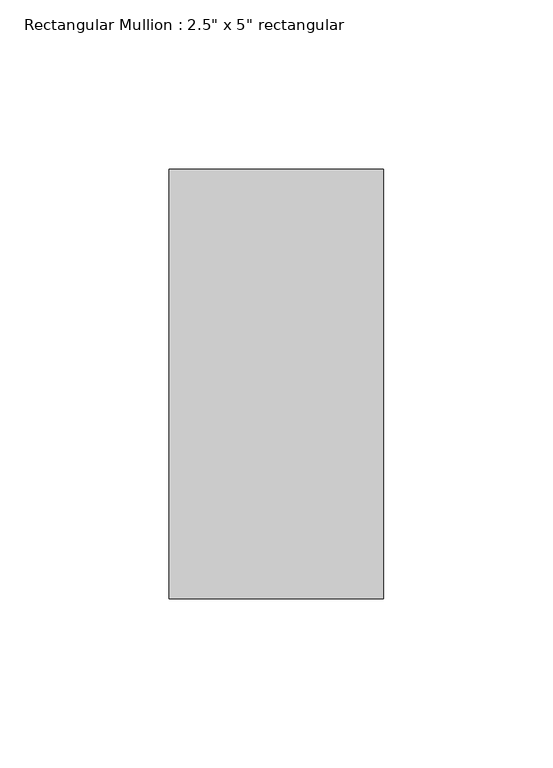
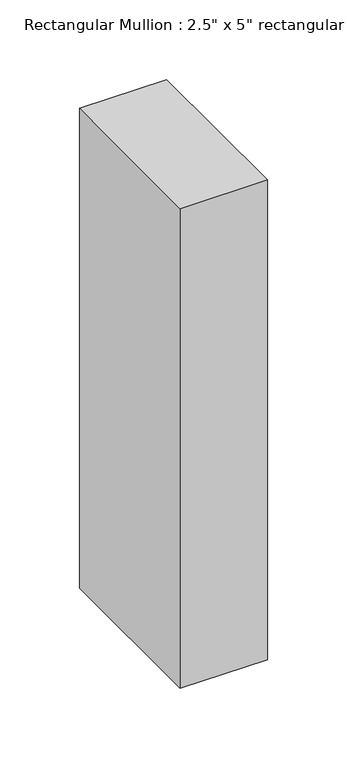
"""IFC4 building model written with IfcOpenShell, lengths in millimetres: member geometry."""

from ifc_helpers import new_model, si_unit, frame, origin, place, context, project, spatial, polyline, outline, extrude, source, transform, mapped, element, save


def member_83c59054(model_context):
    return source(origin(), model_context, "Body", "SweptSolid", [
        extrude(outline(polyline([(0.0, 63.5), (0.0, -63.5), (-63.5, -63.5), (-63.5, 63.5), (0.0, 63.5)])), frame((0.0, 0.0, -368.3), z_axis=(0.0, 0.0, 1.0), x_axis=(1.0, 0.0, 0.0)), (0.0, 0.0, 1.0), 368.3),
    ])


if __name__ == "__main__":
    model = new_model("IFC4")
    model_context = context("Model", 3, world=origin())
    ifc_project = project(units=[si_unit("LENGTHUNIT", "METRE", prefix="MILLI")], contexts=[model_context])
    site = spatial("IfcSite", under=ifc_project)
    building = spatial("IfcBuilding", under=site)
    placement = place(None, origin())
    member_shape = member_83c59054(model_context)
    element("IfcMember", 1, ObjectType="Rectangular Mullion : 2.5\" x 5\" rectangular", at=placement, inside=building, context=model_context, shape_type="MappedRepresentation", body=[
        mapped(member_shape, transform((0.0, 0.0, 0.0), x_axis=(1.0, 0.0, 0.0), y_axis=(0.0, 1.0, 0.0), z_axis=(0.0, 0.0, 1.0))),
    ])
    save(model, "model.ifc")
